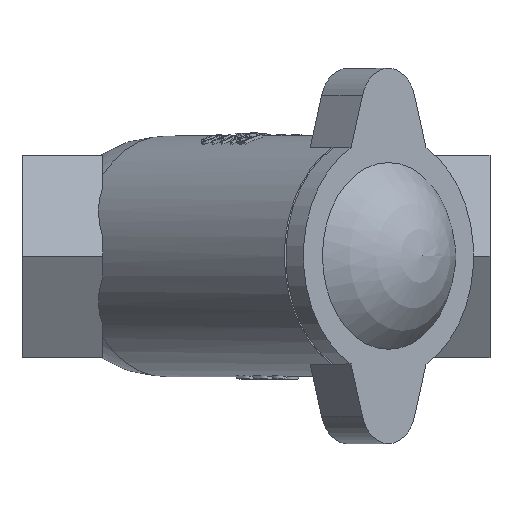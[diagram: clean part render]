
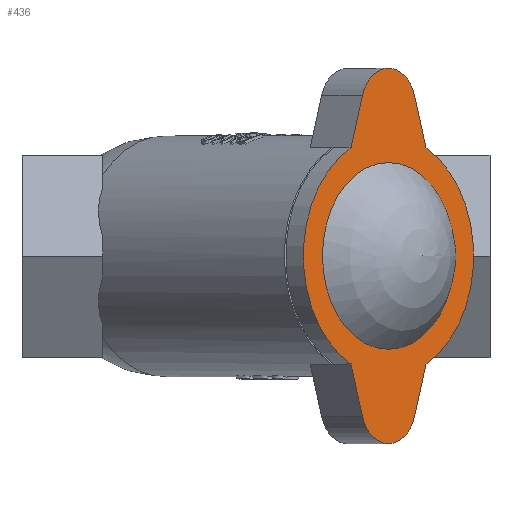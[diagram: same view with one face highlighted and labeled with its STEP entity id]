
A CAD part, top view. The second image highlights one B-rep face of the part: STEP entity #436.
In plain terms, the highlighted planar face has unit normal (0.707, 0, 0.707).
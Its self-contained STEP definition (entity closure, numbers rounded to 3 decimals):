
#436 = ADVANCED_FACE( '', ( #940, #941 ), #942, .F. );
#940 = FACE_OUTER_BOUND( '', #4460, .T. );
#941 = FACE_BOUND( '', #4461, .T. );
#942 = PLANE( '', #4462 );
#4460 = EDGE_LOOP( '', ( #7917, #7918, #7919, #7920, #7921, #7922, #7923, #7924 ) );
#4461 = EDGE_LOOP( '', ( #7925 ) );
#4462 = AXIS2_PLACEMENT_3D( '', #7926, #7927, #7928 );
#7917 = ORIENTED_EDGE( '', *, *, #8660, .F. );
#7918 = ORIENTED_EDGE( '', *, *, #8599, .F. );
#7919 = ORIENTED_EDGE( '', *, *, #8726, .F. );
#7920 = ORIENTED_EDGE( '', *, *, #8952, .F. );
#7921 = ORIENTED_EDGE( '', *, *, #8532, .F. );
#7922 = ORIENTED_EDGE( '', *, *, #8916, .T. );
#7923 = ORIENTED_EDGE( '', *, *, #8677, .T. );
#7924 = ORIENTED_EDGE( '', *, *, #8953, .T. );
#7925 = ORIENTED_EDGE( '', *, *, #8954, .T. );
#7926 = CARTESIAN_POINT( '', ( 34.511, 0., 150.101 ) );
#7927 = DIRECTION( '', ( -0.707, 0., -0.707 ) );
#7928 = DIRECTION( '', ( -0.707, 0., 0.707 ) );
#8532 = EDGE_CURVE( '', #9196, #9198, #9199, .T. );
#8599 = EDGE_CURVE( '', #9315, #9316, #9317, .T. );
#8660 = EDGE_CURVE( '', #9316, #9417, #9418, .T. );
#8677 = EDGE_CURVE( '', #9443, #9444, #9445, .T. );
#8726 = EDGE_CURVE( '', #9524, #9315, #9525, .T. );
#8916 = EDGE_CURVE( '', #9196, #9443, #9792, .T. );
#8952 = EDGE_CURVE( '', #9198, #9524, #9844, .T. );
#8953 = EDGE_CURVE( '', #9444, #9417, #9845, .T. );
#8954 = EDGE_CURVE( '', #9846, #9846, #9847, .T. );
#9196 = VERTEX_POINT( '', #10406 );
#9198 = VERTEX_POINT( '', #10409 );
#9199 = CIRCLE( '', #10410, 62.5 );
#9315 = VERTEX_POINT( '', #11312 );
#9316 = VERTEX_POINT( '', #11313 );
#9317 = LINE( '', #11314, #11315 );
#9417 = VERTEX_POINT( '', #11994 );
#9418 = CIRCLE( '', #11995, 62.5 );
#9443 = VERTEX_POINT( '', #12102 );
#9444 = VERTEX_POINT( '', #12103 );
#9445 = CIRCLE( '', #12104, 20. );
#9524 = VERTEX_POINT( '', #12354 );
#9525 = CIRCLE( '', #12355, 20. );
#9792 = LINE( '', #13790, #13791 );
#9844 = LINE( '', #14426, #14427 );
#9845 = LINE( '', #14428, #14429 );
#9846 = VERTEX_POINT( '', #14430 );
#9847 = CIRCLE( '', #14431, 48.5 );
#10406 = CARTESIAN_POINT( '', ( 88.251, 56.125, 96.36 ) );
#10409 = CARTESIAN_POINT( '', ( 88.251, -56.125, 96.36 ) );
#10410 = AXIS2_PLACEMENT_3D( '', #15649, #15650, #15651 );
#11312 = CARTESIAN_POINT( '', ( 55.289, -83.38, 129.323 ) );
#11313 = CARTESIAN_POINT( '', ( 49.36, -56.125, 135.251 ) );
#11314 = CARTESIAN_POINT( '', ( 55.289, -83.38, 129.323 ) );
#11315 = VECTOR( '', #15670, 1000. );
#11994 = CARTESIAN_POINT( '', ( 49.36, 56.125, 135.251 ) );
#11995 = AXIS2_PLACEMENT_3D( '', #15685, #15686, #15687 );
#12102 = CARTESIAN_POINT( '', ( 82.323, 83.38, 102.289 ) );
#12103 = CARTESIAN_POINT( '', ( 55.289, 83.38, 129.323 ) );
#12104 = AXIS2_PLACEMENT_3D( '', #15692, #15693, #15694 );
#12354 = CARTESIAN_POINT( '', ( 82.323, -83.38, 102.289 ) );
#12355 = AXIS2_PLACEMENT_3D( '', #15708, #15709, #15710 );
#13790 = CARTESIAN_POINT( '', ( 82.323, 83.38, 102.289 ) );
#13791 = VECTOR( '', #15769, 1000. );
#14426 = CARTESIAN_POINT( '', ( 82.323, -83.38, 102.289 ) );
#14427 = VECTOR( '', #15776, 1000. );
#14428 = CARTESIAN_POINT( '', ( 55.289, 83.38, 129.323 ) );
#14429 = VECTOR( '', #15777, 1000. );
#14430 = CARTESIAN_POINT( '', ( 34.511, 0., 150.101 ) );
#14431 = AXIS2_PLACEMENT_3D( '', #15778, #15779, #15780 );
#15649 = CARTESIAN_POINT( '', ( 68.806, 0., 115.806 ) );
#15650 = DIRECTION( '', ( -0.707, 0., -0.707 ) );
#15651 = DIRECTION( '', ( -0.707, 0., 0.707 ) );
#15670 = DIRECTION( '', ( -0.208, 0.956, 0.208 ) );
#15685 = CARTESIAN_POINT( '', ( 68.806, 0., 115.806 ) );
#15686 = DIRECTION( '', ( -0.707, 0., -0.707 ) );
#15687 = DIRECTION( '', ( -0.707, 0., 0.707 ) );
#15692 = CARTESIAN_POINT( '', ( 68.806, 77.5, 115.806 ) );
#15693 = DIRECTION( '', ( 0.707, 0., 0.707 ) );
#15694 = DIRECTION( '', ( 0., -1., 0. ) );
#15708 = CARTESIAN_POINT( '', ( 68.806, -77.5, 115.806 ) );
#15709 = DIRECTION( '', ( -0.707, 0., -0.707 ) );
#15710 = DIRECTION( '', ( 0., 1., 0. ) );
#15769 = DIRECTION( '', ( -0.208, 0.956, 0.208 ) );
#15776 = DIRECTION( '', ( -0.208, -0.956, 0.208 ) );
#15777 = DIRECTION( '', ( -0.208, -0.956, 0.208 ) );
#15778 = CARTESIAN_POINT( '', ( 68.806, 0., 115.806 ) );
#15779 = DIRECTION( '', ( -0.707, 0., -0.707 ) );
#15780 = DIRECTION( '', ( -0.707, 0., 0.707 ) );
